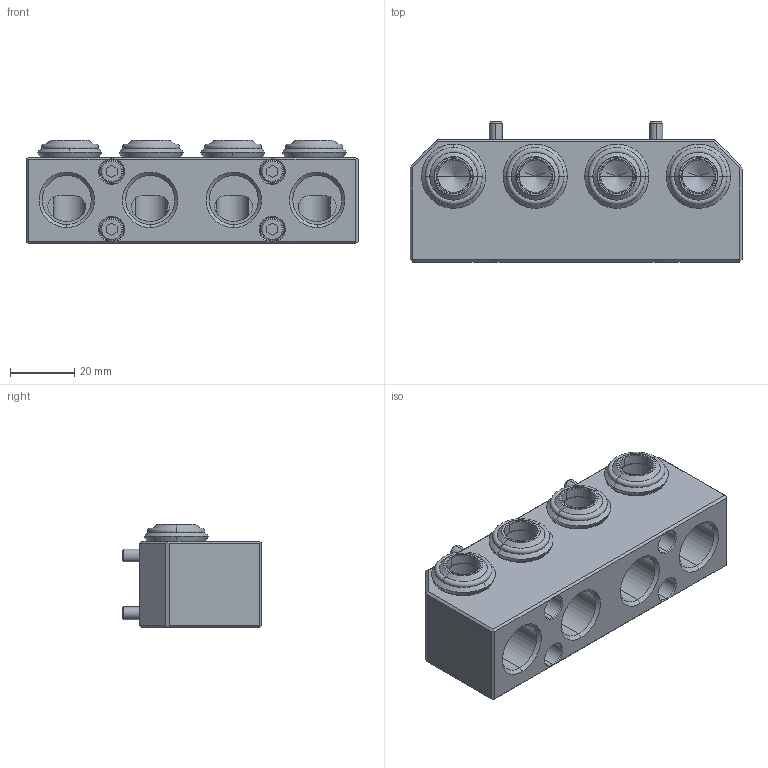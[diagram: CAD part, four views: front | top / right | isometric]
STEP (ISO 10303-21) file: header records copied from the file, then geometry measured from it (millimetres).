
FILE_DESCRIPTION (( 'STEP AP203' ), '1' );
FILE_NAME ('1QCAM-04G38R.STEP', '2024-03-14T08:43:29', ( '微软用户' ), ( '微软中国' ), 'SwSTEP 2.0', 'SolidWorks 2018', '' );
FILE_SCHEMA (( 'CONFIG_CONTROL_DESIGN' ));
Length unit declared in the file: millimetre
Products named in the file (1): 1QCAM-04G38R
Bounding box: 103.4 x 43.6 x 32.22 mm (x, y, z)
Volume: 81316.2 mm3; surface area: 30080.3 mm2
Topology: 1 solids, 7 shells, 469 faces, 1116 edges, 696 vertices
Faces by surface type: plane 180, cylinder 121, cone 104, bspline 40, torus 24
Entity records: 16753 total; most frequent: CARTESIAN_POINT 5900, DIRECTION 2268, ORIENTED_EDGE 2208, EDGE_CURVE 1104, AXIS2_PLACEMENT_3D 842, VERTEX_POINT 696, VECTOR 584, LINE 584
